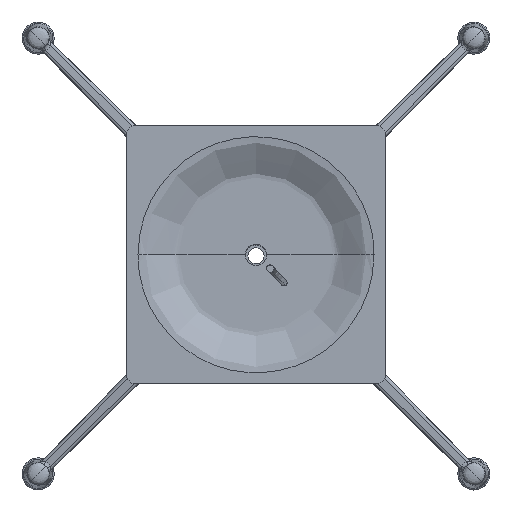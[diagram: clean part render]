
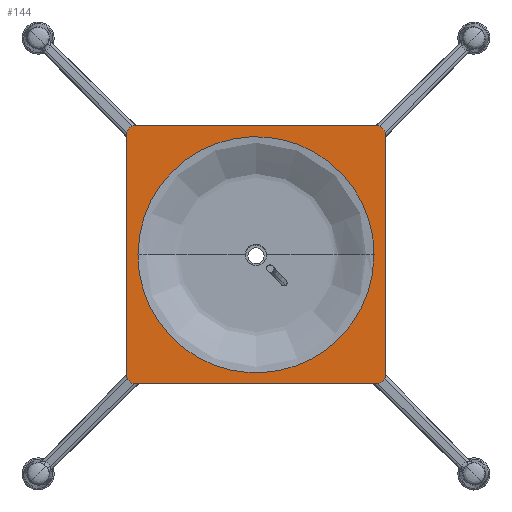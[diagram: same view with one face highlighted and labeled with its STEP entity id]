
A CAD part, top view. The second image highlights one B-rep face of the part: STEP entity #144.
In plain terms, the highlighted planar face has unit normal (0, 0, 1).
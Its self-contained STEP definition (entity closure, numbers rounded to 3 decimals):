
#20=FACE_BOUND('',#436,.T.);
#144=ADVANCED_FACE('',(#287,#20),#2234,.T.);
#287=FACE_OUTER_BOUND('',#435,.T.);
#435=EDGE_LOOP('',(#1072,#1073,#1074,#1075,#1076,#1077,#1078,#1079));
#436=EDGE_LOOP('',(#1080,#1081));
#1072=ORIENTED_EDGE('',*,*,#1522,.T.);
#1073=ORIENTED_EDGE('',*,*,#1495,.T.);
#1074=ORIENTED_EDGE('',*,*,#1517,.T.);
#1075=ORIENTED_EDGE('',*,*,#1496,.T.);
#1076=ORIENTED_EDGE('',*,*,#1512,.T.);
#1077=ORIENTED_EDGE('',*,*,#1497,.T.);
#1078=ORIENTED_EDGE('',*,*,#1507,.T.);
#1079=ORIENTED_EDGE('',*,*,#1498,.T.);
#1080=ORIENTED_EDGE('',*,*,#1542,.T.);
#1081=ORIENTED_EDGE('',*,*,#1500,.T.);
#1495=EDGE_CURVE('',#2114,#2115,#1881,.T.);
#1496=EDGE_CURVE('',#2116,#2117,#1882,.T.);
#1497=EDGE_CURVE('',#2118,#2119,#1883,.T.);
#1498=EDGE_CURVE('',#2120,#2113,#1884,.T.);
#1500=EDGE_CURVE('',#2121,#2122,#1652,.T.);
#1507=EDGE_CURVE('',#2119,#2120,#1888,.T.);
#1512=EDGE_CURVE('',#2117,#2118,#1893,.T.);
#1517=EDGE_CURVE('',#2115,#2116,#1898,.T.);
#1522=EDGE_CURVE('',#2113,#2114,#1903,.T.);
#1542=EDGE_CURVE('',#2122,#2121,#1659,.T.);
#1652=(
BOUNDED_CURVE()
B_SPLINE_CURVE(2,(#41139,#41140,#41141,#41142,#41143),.UNSPECIFIED.,.F.,
 .F.)
B_SPLINE_CURVE_WITH_KNOTS((3,2,3),(-438.828,-219.414,
0.),.UNSPECIFIED.)
CURVE()
GEOMETRIC_REPRESENTATION_ITEM()
RATIONAL_B_SPLINE_CURVE((1.,0.707,1.,0.707,1.))
REPRESENTATION_ITEM('')
);
#1659=(
BOUNDED_CURVE()
B_SPLINE_CURVE(2,(#41293,#41294,#41295,#41296,#41297),.UNSPECIFIED.,.F.,
 .F.)
B_SPLINE_CURVE_WITH_KNOTS((3,2,3),(-438.828,-219.414,
0.),.UNSPECIFIED.)
CURVE()
GEOMETRIC_REPRESENTATION_ITEM()
RATIONAL_B_SPLINE_CURVE((1.,0.707,1.,0.707,1.))
REPRESENTATION_ITEM('')
);
#1881=B_SPLINE_CURVE_WITH_KNOTS('',1,(#41126,#41127),.UNSPECIFIED.,.F.,
 .F.,(2,2),(0.,228.),.UNSPECIFIED.);
#1882=B_SPLINE_CURVE_WITH_KNOTS('',1,(#41128,#41129),.UNSPECIFIED.,.F.,
 .F.,(2,2),(0.,228.),.UNSPECIFIED.);
#1883=B_SPLINE_CURVE_WITH_KNOTS('',1,(#41130,#41131),.UNSPECIFIED.,.F.,
 .F.,(2,2),(0.,228.),.UNSPECIFIED.);
#1884=B_SPLINE_CURVE_WITH_KNOTS('',1,(#41132,#41133),.UNSPECIFIED.,.F.,
 .F.,(2,2),(0.,228.),.UNSPECIFIED.);
#1888=B_SPLINE_CURVE_WITH_KNOTS('',3,(#41171,#41172,#41173,#41174),
 .UNSPECIFIED.,.F.,.F.,(4,4),(-8.863,0.),.UNSPECIFIED.);
#1893=B_SPLINE_CURVE_WITH_KNOTS('',3,(#41185,#41186,#41187,#41188),
 .UNSPECIFIED.,.F.,.F.,(4,4),(-8.863,0.),.UNSPECIFIED.);
#1898=B_SPLINE_CURVE_WITH_KNOTS('',3,(#41199,#41200,#41201,#41202),
 .UNSPECIFIED.,.F.,.F.,(4,4),(-8.863,0.),.UNSPECIFIED.);
#1903=B_SPLINE_CURVE_WITH_KNOTS('',3,(#41213,#41214,#41215,#41216),
 .UNSPECIFIED.,.F.,.F.,(4,4),(-8.863,0.),.UNSPECIFIED.);
#2113=VERTEX_POINT('',#37849);
#2114=VERTEX_POINT('',#37850);
#2115=VERTEX_POINT('',#37851);
#2116=VERTEX_POINT('',#37852);
#2117=VERTEX_POINT('',#37853);
#2118=VERTEX_POINT('',#37854);
#2119=VERTEX_POINT('',#37855);
#2120=VERTEX_POINT('',#37856);
#2121=VERTEX_POINT('',#37857);
#2122=VERTEX_POINT('',#37858);
#2234=PLANE('',#2331);
#2331=AXIS2_PLACEMENT_3D('',#37274,#2359,$);
#2359=DIRECTION('',(0.,0.,1.));
#37274=CARTESIAN_POINT('',(-144.12,-144.12,670.));
#37849=CARTESIAN_POINT('',(120.,114.,670.));
#37850=CARTESIAN_POINT('',(114.,120.,670.));
#37851=CARTESIAN_POINT('',(-114.,120.,670.));
#37852=CARTESIAN_POINT('',(-120.,114.,670.));
#37853=CARTESIAN_POINT('',(-120.,-114.,670.));
#37854=CARTESIAN_POINT('',(-114.,-120.,670.));
#37855=CARTESIAN_POINT('',(114.,-120.,670.));
#37856=CARTESIAN_POINT('',(120.,-114.,670.));
#37857=CARTESIAN_POINT('',(-109.707,0.,670.));
#37858=CARTESIAN_POINT('',(109.707,0.,670.));
#41126=CARTESIAN_POINT('',(114.,120.,670.));
#41127=CARTESIAN_POINT('',(-114.,120.,670.));
#41128=CARTESIAN_POINT('',(-120.,114.,670.));
#41129=CARTESIAN_POINT('',(-120.,-114.,670.));
#41130=CARTESIAN_POINT('',(-114.,-120.,670.));
#41131=CARTESIAN_POINT('',(114.,-120.,670.));
#41132=CARTESIAN_POINT('',(120.,-114.,670.));
#41133=CARTESIAN_POINT('',(120.,114.,670.));
#41139=CARTESIAN_POINT('',(-109.707,0.,670.));
#41140=CARTESIAN_POINT('',(-109.707,109.707,670.));
#41141=CARTESIAN_POINT('',(0.,109.707,670.));
#41142=CARTESIAN_POINT('',(109.707,109.707,670.));
#41143=CARTESIAN_POINT('',(109.707,0.,670.));
#41171=CARTESIAN_POINT('',(114.,-120.,670.));
#41172=CARTESIAN_POINT('',(116.664,-118.797,670.));
#41173=CARTESIAN_POINT('',(118.797,-116.664,670.));
#41174=CARTESIAN_POINT('',(120.,-114.,670.));
#41185=CARTESIAN_POINT('',(-120.,-114.,670.));
#41186=CARTESIAN_POINT('',(-118.797,-116.664,670.));
#41187=CARTESIAN_POINT('',(-116.664,-118.797,670.));
#41188=CARTESIAN_POINT('',(-114.,-120.,670.));
#41199=CARTESIAN_POINT('',(-114.,120.,670.));
#41200=CARTESIAN_POINT('',(-116.664,118.797,670.));
#41201=CARTESIAN_POINT('',(-118.797,116.664,670.));
#41202=CARTESIAN_POINT('',(-120.,114.,670.));
#41213=CARTESIAN_POINT('',(120.,114.,670.));
#41214=CARTESIAN_POINT('',(118.797,116.664,670.));
#41215=CARTESIAN_POINT('',(116.664,118.797,670.));
#41216=CARTESIAN_POINT('',(114.,120.,670.));
#41293=CARTESIAN_POINT('',(109.707,0.,670.));
#41294=CARTESIAN_POINT('',(109.707,-109.707,670.));
#41295=CARTESIAN_POINT('',(0.,-109.707,670.));
#41296=CARTESIAN_POINT('',(-109.707,-109.707,670.));
#41297=CARTESIAN_POINT('',(-109.707,0.,670.));
